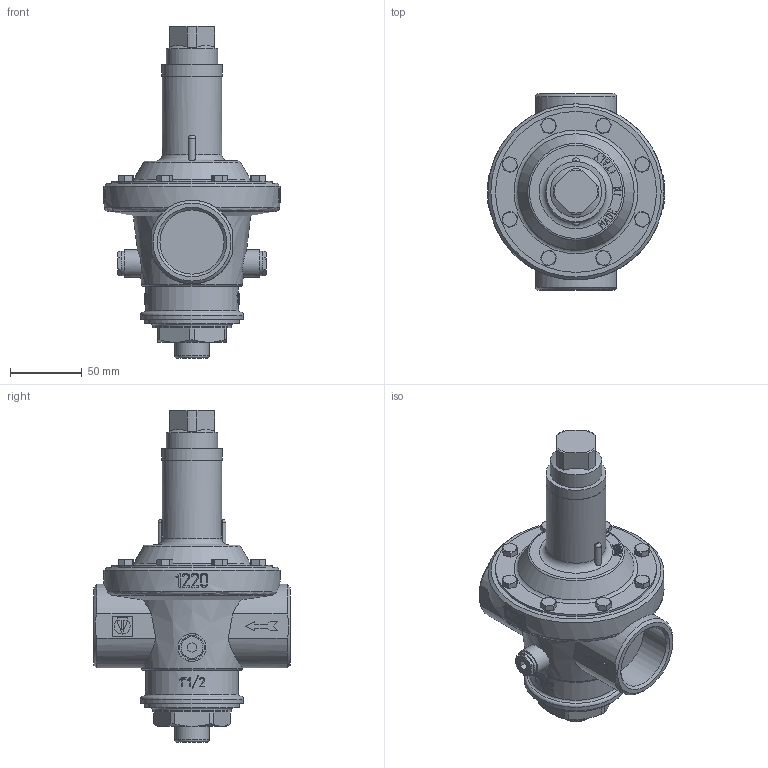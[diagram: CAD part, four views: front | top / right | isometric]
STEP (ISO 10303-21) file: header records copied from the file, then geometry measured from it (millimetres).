
FILE_DESCRIPTION(('STEP AP242'), '1');
FILE_NAME('VT.085.N.0807', '', ('UNSPECIFIED'), ('UNSPECIFIED'), 'C3D Converter', 'C3D Toolkit', '');
FILE_SCHEMA(('AP242_MANAGED_MODEL_BASED_3D_ENGINEERING_MIM_LF { 1 0 10303 442 1 1 4 }'));
Length unit declared in the file: millimetre
Bounding box: 124 x 137 x 232 mm (x, y, z)
Volume: 890519.2 mm3; surface area: 83092.3 mm2
Topology: 1 solids, 1 shells, 951 faces, 2567 edges, 1689 vertices
Faces by surface type: extrusion 402, plane 399, cone 76, cylinder 62, torus 12
Full cylindrical faces by diameter (mm): 17 x2, 19.5 x2, 24.3 x1, 35.8 x1, 41.5 x1, 42 x1, 44.846 x2, 55 x1, 65 x1, 66 x1, 72 x1, 112.5 x1, 123 x1
Entity records: 43355 total; most frequent: CARTESIAN_POINT 21743, ORIENTED_EDGE 5032, DIRECTION 3145, EDGE_CURVE 2516, VERTEX_POINT 1673, VECTOR 1575, B_SPLINE_CURVE_WITH_KNOTS 1385, LINE 1173
